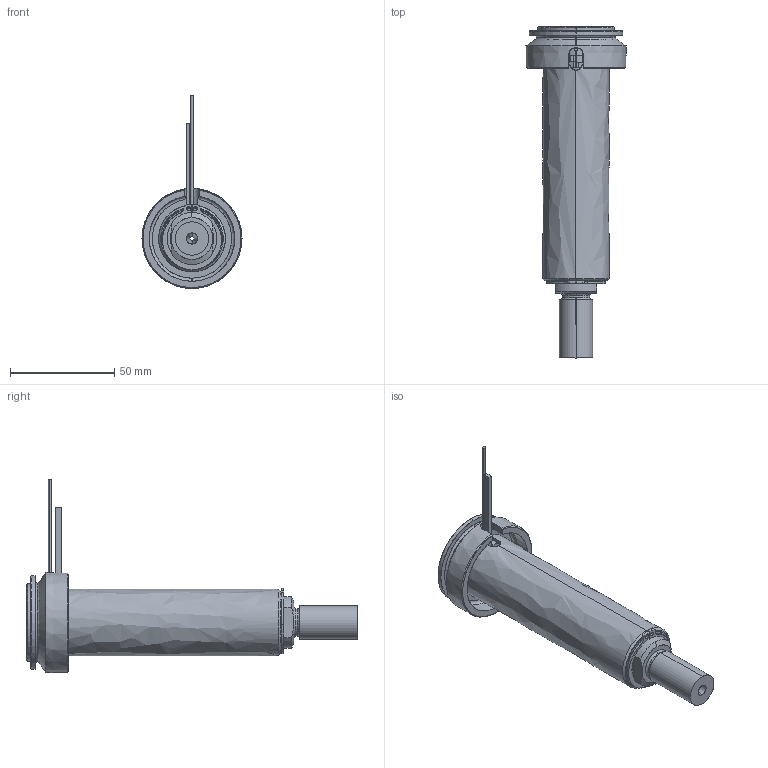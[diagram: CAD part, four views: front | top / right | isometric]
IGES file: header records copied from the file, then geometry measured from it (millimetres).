
Start section: SolidWorks IGES file using analytic representation for surfaces
Global section: file name: C:\Documents and Settings\ws-20\Desktop\TEMPORANEA\UGBE5003-M-A-P-3 [Ød-2.0 P-25 ØC-13].IGS; native system: SolidWorks 2012; preprocessor: SolidWorks 2012; author: ws-20; date: 120306.162058; units: millimetre
Bounding box: 48 x 159.25 x 92.62 mm (x, y, z)
Surface area: 51257 mm2 (no closed solid volume)
Topology: 0 solids, 0 shells, 109 faces, 2046 edges, 2046 vertices
Faces by surface type: revolution 61, bspline 48
